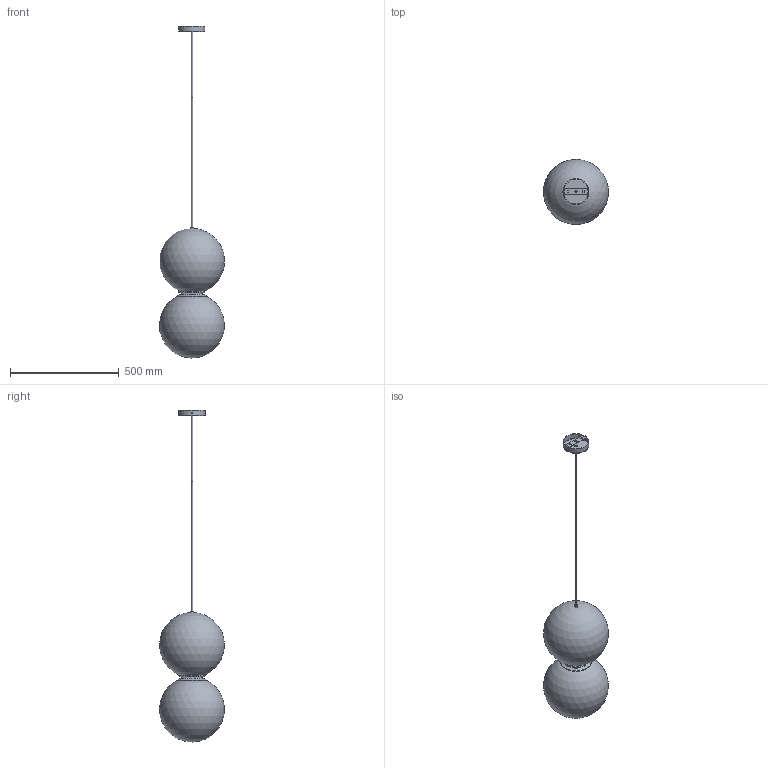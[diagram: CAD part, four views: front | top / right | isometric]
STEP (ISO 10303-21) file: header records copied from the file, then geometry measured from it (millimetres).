
FILE_DESCRIPTION( ( 'Unknown' ), '1' );
FILE_NAME( '//MMS001/Pubblica/PROGETTI MM LAMPADARI/7434 SERIE TUMBLER/ELECTA - LO SCALZO/OLD/PRJ 192_2019 lo scalzo/Sospensioni Singola due misure senza arco/Vetro grande/PRJ 192_Sospensione singola vetro grande.stp', 'Unknown', ( 'Unknown' ), ( 'Unknown' ), 'XStep 1.0', 'Unknown', ' ' );
FILE_SCHEMA( ( 'automotive_design' ) );
Length unit declared in the file: millimetre
Products named in the file (15): Assem1; Assem2; Assem3; Base Ø120 per Kendama; Attacco terra Kendama; Lampadina E27; Particolare_revisione; Piatino_revisione; Disco fissaggio_sfera300; Sfera ﾘ300; Tubo raccordo OTTONE; Cavo elettrico; Staffa
Bounding box: 298.89 x 299.79 x 1528.5 mm (x, y, z)
Volume: 1887401.2 mm3; surface area: 1504524.3 mm2
Topology: 29 solids, 32 shells, 472 faces, 1116 edges, 727 vertices
Faces by surface type: plane 203, cylinder 171, bspline 27, cone 24, torus 18, sphere 14, revolution 12, extrusion 3
Full cylindrical faces by diameter (mm): 0.2 x18, 0.5 x6, 0.75 x6, 1.2 x3, 2 x2, 3 x6, 3.242 x8, 4.134 x2, 5 x6, 6 x2, 8.917 x2, 10 x2, 10.25 x5, 12 x2, 15.285 x3, 16 x2, 18 x4, 22 x7, 24 x3, 26 x3, 110 x2, 118 x3, 120 x3
Entity records: 7548 total; most frequent: CARTESIAN_POINT 3223, DIRECTION 854, ORIENTED_EDGE 702, EDGE_CURVE 351, AXIS2_PLACEMENT_3D 343, EDGE_LOOP 298, VERTEX_POINT 263, FACE_OUTER_BOUND 242
